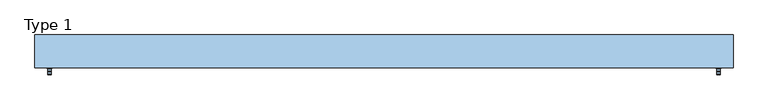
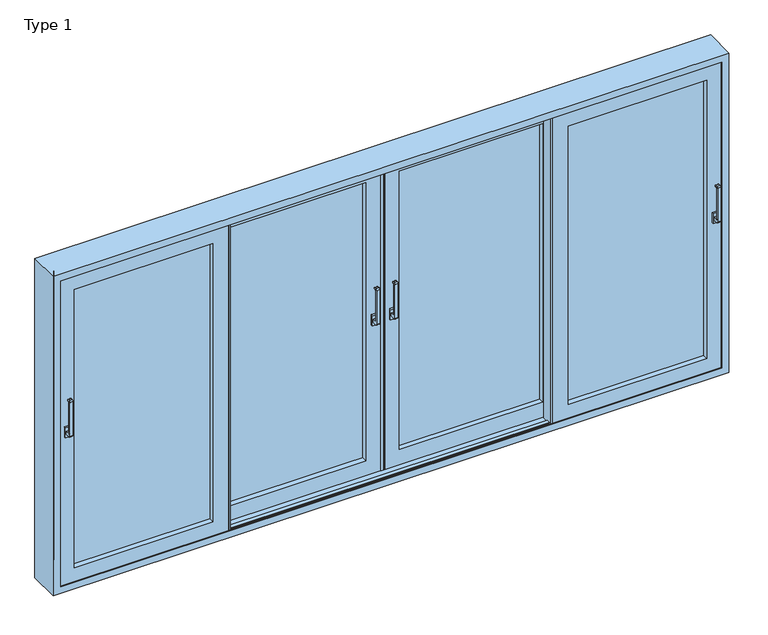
"""IFC4 building model written with IfcOpenShell, lengths in millimetres: window geometry, ETEM_ES70_Quadruple_Fly Screen_Lift_Sliding : Type 1."""

from ifc_helpers import new_model, si_unit, point, frame, frame_2d, origin, place, context, project, spatial, polyline, circle_curve, ellipse_curve, trimmed, segment, composite_curve, outline, extrude, faceted_brep, source, transform, mapped, element, save
from ifc_brep_helpers import plane_surface, cylinder_surface, revolved_surface, advanced_brep


def type_1_9ca19b3c(model_context):
    return source(origin(), model_context, "Body", "SolidModel", [
        extrude(outline(composite_curve([segment(polyline([(-107.3992454, 1090.0), (-138.9729301, 1090.0)]), True, "CONTINUOUS"), segment(trimmed(circle_curve(frame_2d((-138.9729301, 1098.4263152)), 8.4263152), [point((-138.9729301, 1090.0))], [point((-147.3992454, 1098.4263152))], False, "CARTESIAN"), True, "CONTINUOUS"), segment(polyline([(-147.3992454, 1098.4263152), (-147.3992454, 1331.5736848)]), True, "CONTINUOUS"), segment(trimmed(circle_curve(frame_2d((-138.9729301, 1331.5736848)), 8.4263152), [point((-147.3992454, 1331.5736848))], [point((-138.9729301, 1340.0))], False, "CARTESIAN"), True, "CONTINUOUS"), segment(polyline([(-138.9729301, 1340.0), (-127.3992454, 1340.0)]), True, "CONTINUOUS"), segment(trimmed(circle_curve(frame_2d((-127.3992454, 1335.0)), 5.0), [point((-127.3992454, 1340.0))], [point((-127.3992454, 1330.0))], False, "CARTESIAN"), True, "CONTINUOUS"), segment(polyline([(-127.3992454, 1330.0), (-133.8637115, 1330.0)]), True, "CONTINUOUS"), segment(trimmed(circle_curve(frame_2d((-133.8637115, 1326.4644661)), 3.5355339), [point((-133.8637115, 1330.0))], [point((-137.3992454, 1326.4644661))], True, "CARTESIAN"), True, "CONTINUOUS"), segment(polyline([(-137.3992454, 1326.4644661), (-137.3992454, 1113.5355339)]), True, "CONTINUOUS"), segment(trimmed(circle_curve(frame_2d((-133.8637115, 1113.5355339)), 3.5355339), [point((-137.3992454, 1113.5355339))], [point((-133.8637115, 1110.0))], True, "CARTESIAN"), True, "CONTINUOUS"), segment(polyline([(-133.8637115, 1110.0), (-107.3992454, 1110.0), (-107.3992454, 1090.0)]), True, "CONTINUOUS")], self_intersect=False)), frame((2098.5, 0.0, 0.0), z_axis=(1.0, 0.0, 0.0), x_axis=(0.0, 1.0, 0.0)), (0.0, 0.0, 1.0), 20.0),
        extrude(outline(polyline([(2093.5, -107.3992454), (2093.5, -94.3992454), (2123.5, -94.3992454), (2123.5, -107.3992454), (2093.5, -107.3992454)])), frame((0.0, 0.0, 1065.0), z_axis=(0.0, 0.0, 1.0), x_axis=(1.0, 0.0, 0.0)), (0.0, 0.0, 1.0), 70.0),
        extrude(outline(composite_curve([segment(polyline([(-107.3992454, 1090.0), (-138.9729301, 1090.0)]), True, "CONTINUOUS"), segment(trimmed(circle_curve(frame_2d((-138.9729301, 1098.4263152)), 8.4263152), [point((-138.9729301, 1090.0))], [point((-147.3992454, 1098.4263152))], False, "CARTESIAN"), True, "CONTINUOUS"), segment(polyline([(-147.3992454, 1098.4263152), (-147.3992454, 1331.5736848)]), True, "CONTINUOUS"), segment(trimmed(circle_curve(frame_2d((-138.9729301, 1331.5736848)), 8.4263152), [point((-147.3992454, 1331.5736848))], [point((-138.9729301, 1340.0))], False, "CARTESIAN"), True, "CONTINUOUS"), segment(polyline([(-138.9729301, 1340.0), (-127.3992454, 1340.0)]), True, "CONTINUOUS"), segment(trimmed(circle_curve(frame_2d((-127.3992454, 1335.0)), 5.0), [point((-127.3992454, 1340.0))], [point((-127.3992454, 1330.0))], False, "CARTESIAN"), True, "CONTINUOUS"), segment(polyline([(-127.3992454, 1330.0), (-133.8637115, 1330.0)]), True, "CONTINUOUS"), segment(trimmed(circle_curve(frame_2d((-133.8637115, 1326.4644661)), 3.5355339), [point((-133.8637115, 1330.0))], [point((-137.3992454, 1326.4644661))], True, "CARTESIAN"), True, "CONTINUOUS"), segment(polyline([(-137.3992454, 1326.4644661), (-137.3992454, 1113.5355339)]), True, "CONTINUOUS"), segment(trimmed(circle_curve(frame_2d((-133.8637115, 1113.5355339)), 3.5355339), [point((-137.3992454, 1113.5355339))], [point((-133.8637115, 1110.0))], True, "CARTESIAN"), True, "CONTINUOUS"), segment(polyline([(-133.8637115, 1110.0), (-107.3992454, 1110.0), (-107.3992454, 1090.0)]), True, "CONTINUOUS")], self_intersect=False)), frame((-2118.5, 0.0, 0.0), z_axis=(1.0, 0.0, 0.0), x_axis=(0.0, 1.0, 0.0)), (0.0, 0.0, 1.0), 20.0),
        extrude(outline(polyline([(-2123.5, -107.3992454), (-2123.5, -94.3992454), (-2093.5, -94.3992454), (-2093.5, -107.3992454), (-2123.5, -107.3992454)])), frame((0.0, 0.0, 1065.0), z_axis=(0.0, 0.0, 1.0), x_axis=(1.0, 0.0, 0.0)), (0.0, 0.0, 1.0), 70.0),
        extrude(outline(composite_curve([segment(polyline([(-17.4, 1090.0), (-48.9736848, 1090.0)]), True, "CONTINUOUS"), segment(trimmed(circle_curve(frame_2d((-48.9736848, 1098.4263152)), 8.4263152), [point((-48.9736848, 1090.0))], [point((-57.4, 1098.4263152))], False, "CARTESIAN"), True, "CONTINUOUS"), segment(polyline([(-57.4, 1098.4263152), (-57.4, 1331.5736848)]), True, "CONTINUOUS"), segment(trimmed(circle_curve(frame_2d((-48.9736848, 1331.5736848)), 8.4263152), [point((-57.4, 1331.5736848))], [point((-48.9736848, 1340.0))], False, "CARTESIAN"), True, "CONTINUOUS"), segment(polyline([(-48.9736848, 1340.0), (-37.4, 1340.0)]), True, "CONTINUOUS"), segment(trimmed(circle_curve(frame_2d((-37.4, 1335.0)), 5.0), [point((-37.4, 1340.0))], [point((-37.4, 1330.0))], False, "CARTESIAN"), True, "CONTINUOUS"), segment(polyline([(-37.4, 1330.0), (-43.8644661, 1330.0)]), True, "CONTINUOUS"), segment(trimmed(circle_curve(frame_2d((-43.8644661, 1326.4644661)), 3.5355339), [point((-43.8644661, 1330.0))], [point((-47.4, 1326.4644661))], True, "CARTESIAN"), True, "CONTINUOUS"), segment(polyline([(-47.4, 1326.4644661), (-47.4, 1113.5355339)]), True, "CONTINUOUS"), segment(trimmed(circle_curve(frame_2d((-43.8644661, 1113.5355339)), 3.5355339), [point((-47.4, 1113.5355339))], [point((-43.8644661, 1110.0))], True, "CARTESIAN"), True, "CONTINUOUS"), segment(polyline([(-43.8644661, 1110.0), (-17.4, 1110.0), (-17.4, 1090.0)]), True, "CONTINUOUS")], self_intersect=False)), frame((-69.4936823, 0.0, 0.0), z_axis=(1.0, 0.0, 0.0), x_axis=(0.0, 1.0, 0.0)), (0.0, 0.0, 1.0), 20.0),
        extrude(outline(polyline([(-74.4936823, -17.4), (-74.4936823, -4.4), (-44.4936823, -4.4), (-44.4936823, -17.4), (-74.4936823, -17.4)])), frame((0.0, 0.0, 1065.0), z_axis=(0.0, 0.0, 1.0), x_axis=(1.0, 0.0, 0.0)), (0.0, 0.0, 1.0), 70.0),
        extrude(outline(composite_curve([segment(polyline([(-17.4, 1090.0), (-48.9736848, 1090.0)]), True, "CONTINUOUS"), segment(trimmed(circle_curve(frame_2d((-48.9736848, 1098.4263152)), 8.4263152), [point((-48.9736848, 1090.0))], [point((-57.4, 1098.4263152))], False, "CARTESIAN"), True, "CONTINUOUS"), segment(polyline([(-57.4, 1098.4263152), (-57.4, 1331.5736848)]), True, "CONTINUOUS"), segment(trimmed(circle_curve(frame_2d((-48.9736848, 1331.5736848)), 8.4263152), [point((-57.4, 1331.5736848))], [point((-48.9736848, 1340.0))], False, "CARTESIAN"), True, "CONTINUOUS"), segment(polyline([(-48.9736848, 1340.0), (-37.4, 1340.0)]), True, "CONTINUOUS"), segment(trimmed(circle_curve(frame_2d((-37.4, 1335.0)), 5.0), [point((-37.4, 1340.0))], [point((-37.4, 1330.0))], False, "CARTESIAN"), True, "CONTINUOUS"), segment(polyline([(-37.4, 1330.0), (-43.8644661, 1330.0)]), True, "CONTINUOUS"), segment(trimmed(circle_curve(frame_2d((-43.8644661, 1326.4644661)), 3.5355339), [point((-43.8644661, 1330.0))], [point((-47.4, 1326.4644661))], True, "CARTESIAN"), True, "CONTINUOUS"), segment(polyline([(-47.4, 1326.4644661), (-47.4, 1113.5355339)]), True, "CONTINUOUS"), segment(trimmed(circle_curve(frame_2d((-43.8644661, 1113.5355339)), 3.5355339), [point((-47.4, 1113.5355339))], [point((-43.8644661, 1110.0))], True, "CARTESIAN"), True, "CONTINUOUS"), segment(polyline([(-43.8644661, 1110.0), (-17.4, 1110.0), (-17.4, 1090.0)]), True, "CONTINUOUS")], self_intersect=False)), frame((49.4931787, 0.0, 0.0), z_axis=(1.0, 0.0, 0.0), x_axis=(0.0, 1.0, 0.0)), (0.0, 0.0, 1.0), 20.0),
        extrude(outline(polyline([(74.4931787, -17.4), (44.4931787, -17.4), (44.4931787, -4.4), (74.4931787, -4.4), (74.4931787, -17.4)])), frame((0.0, 0.0, 1065.0), z_axis=(0.0, 0.0, 1.0), x_axis=(1.0, 0.0, 0.0)), (0.0, 0.0, 1.0), 70.0),
        faceted_brep([(2200.0, -101.0, 2200.0), (2200.0, -101.0, 0.0), (2200.0, 105.0, 0.0), (2200.0, 105.0, 2200.0), (-2200.0, -101.0, 2200.0), (-2200.0, -101.0, 0.0), (2152.0, -101.0, 48.0), (-2152.0, -101.0, 48.0), (-2152.0, -101.0, 2152.0), (2152.0, -101.0, 2152.0), (-2200.0, 105.0, 0.0), (-2200.0, 105.0, 2200.0), (2183.7, 105.0, 2183.7), (-2183.7, 105.0, 2183.7), (-2183.7, 105.0, 16.3), (2183.7, 105.0, 16.3), (2183.7, 35.1, 2183.7), (2183.7, 84.1, 2183.7), (2183.7, 84.1, 16.3), (2183.7, 35.1, 16.3), (-2183.7, 84.1, 16.3), (-2183.7, 35.1, 16.3), (-2183.7, 35.1, 2183.7), (2160.0, 35.1, 2160.0), (-2160.0, 35.1, 2160.0), (-2160.0, 35.1, 40.0), (2160.0, 35.1, 40.0), (2160.0, 49.1, 2160.0), (2160.0, 49.1, 40.0), (-2160.0, 49.1, 40.0), (-2160.0, 49.1, 2160.0), (2152.0, 49.1, 2152.0), (-2152.0, 49.1, 2152.0), (-2152.0, 49.1, 48.0), (2152.0, 49.1, 48.0), (2152.0, 26.1, 2152.0), (2152.0, 26.1, 48.0), (-2152.0, 26.1, 48.0), (2183.7, 26.1, 2183.7), (-2183.7, 26.1, 2183.7), (-2183.7, 26.1, 16.3), (2183.7, 26.1, 16.3), (-2152.0, 26.1, 2152.0), (2183.7, -54.9, 2183.7), (2183.7, -54.9, 16.3), (-2183.7, -54.9, 16.3), (-2183.7, -54.9, 2183.7), (2152.0, -54.9, 2152.0), (-2152.0, -54.9, 2152.0), (-2152.0, -54.9, 48.0), (2152.0, -54.9, 48.0), (2152.0, -77.9, 2152.0), (2152.0, -77.9, 48.0), (-2152.0, -77.9, 48.0), (2160.0, -77.9, 2160.0), (-2160.0, -77.9, 2160.0), (-2160.0, -77.9, 40.0), (2160.0, -77.9, 40.0), (-2152.0, -77.9, 2152.0), (2160.0, -63.9, 2160.0), (2160.0, -63.9, 40.0), (-2160.0, -63.9, 40.0), (2183.7, -63.9, 2183.7), (-2183.7, -63.9, 2183.7), (-2183.7, -63.9, 16.3), (2183.7, -63.9, 16.3), (-2160.0, -63.9, 2160.0), (2183.7, -97.2, 2183.7), (2183.7, -97.2, 16.3), (-2183.7, -97.2, 16.3), (-2183.7, -97.2, 2183.7), (2152.0, -97.2, 2152.0), (-2152.0, -97.2, 2152.0), (-2152.0, -97.2, 48.0), (2152.0, -97.2, 48.0), (-2183.7, 84.1, 2183.7), (2161.0, 84.1, 39.0), (-2161.0, 84.1, 39.0), (-2161.0, 84.1, 2161.0), (2161.0, 84.1, 2161.0), (-2183.7, 93.1, 16.3), (-2183.7, 93.1, 2183.7), (2183.7, 93.1, 16.3), (2183.7, 93.1, 2183.7), (2161.0, 93.1, 2161.0), (-2161.0, 93.1, 2161.0), (-2161.0, 93.1, 39.0), (2161.0, 93.1, 39.0), (2161.0, 94.6007546, 2161.0), (2161.0, 94.6007546, 39.0), (-2161.0, 94.6007546, 39.0), (-2161.0, 94.6007546, 2161.0), (2152.0, 94.6007546, 2152.0), (-2152.0, 94.6007546, 2152.0), (-2152.0, 94.6007546, 48.0), (2152.0, 94.6007546, 48.0), (2152.0, 82.6007546, 2152.0), (2152.0, 82.6007546, 48.0), (-2152.0, 82.6007546, 48.0), (2161.0, 82.6007546, 2161.0), (-2161.0, 82.6007546, 2161.0), (-2161.0, 82.6007546, 39.0), (2161.0, 82.6007546, 39.0), (-2152.0, 82.6007546, 2152.0)], [[[0, 1, 2, 3]], [[0, 4, 5, 1], [6, 7, 8, 9]], [[2, 1, 5, 10]], [[2, 10, 11, 3], [12, 13, 14, 15]], [[16, 17, 18, 19]], [[19, 18, 20, 21]], [[19, 21, 22, 16], [23, 24, 25, 26]], [[27, 23, 26, 28]], [[28, 26, 25, 29]], [[28, 29, 30, 27], [31, 32, 33, 34]], [[35, 31, 34, 36]], [[36, 34, 33, 37]], [[38, 39, 40, 41], [36, 37, 42, 35]], [[43, 38, 41, 44]], [[44, 41, 40, 45]], [[44, 45, 46, 43], [47, 48, 49, 50]], [[51, 47, 50, 52]], [[52, 50, 49, 53]], [[54, 55, 56, 57], [52, 53, 58, 51]], [[59, 54, 57, 60]], [[60, 57, 56, 61]], [[62, 63, 64, 65], [60, 61, 66, 59]], [[67, 62, 65, 68]], [[68, 65, 64, 69]], [[68, 69, 70, 67], [71, 72, 73, 74]], [[9, 71, 74, 6]], [[6, 74, 73, 7]], [[10, 5, 4, 11]], [[21, 20, 75, 22]], [[29, 25, 24, 30]], [[37, 33, 32, 42]], [[45, 40, 39, 46]], [[53, 49, 48, 58]], [[61, 56, 55, 66]], [[69, 64, 63, 70]], [[7, 73, 72, 8]], [[11, 4, 0, 3]], [[22, 75, 17, 16]], [[30, 24, 23, 27]], [[42, 32, 31, 35]], [[46, 39, 38, 43]], [[58, 48, 47, 51]], [[66, 55, 54, 59]], [[70, 63, 62, 67]], [[8, 72, 71, 9]], [[17, 75, 20, 18], [76, 77, 78, 79]], [[80, 14, 13, 81]], [[82, 15, 14, 80]], [[83, 12, 15, 82]], [[82, 80, 81, 83], [84, 85, 86, 87]], [[88, 84, 87, 89]], [[89, 87, 86, 90]], [[89, 90, 91, 88], [92, 93, 94, 95]], [[96, 92, 95, 97]], [[97, 95, 94, 98]], [[99, 100, 101, 102], [97, 98, 103, 96]], [[79, 99, 102, 76]], [[76, 102, 101, 77]], [[90, 86, 85, 91]], [[98, 94, 93, 103]], [[77, 101, 100, 78]], [[81, 13, 12, 83]], [[91, 85, 84, 88]], [[103, 93, 92, 96]], [[78, 100, 99, 79]]]),
        faceted_brep([(1146.5, 8.0, 2161.0), (1146.5, -4.4, 2161.0), (1146.5, -4.4, 39.0), (1146.5, 8.0, 39.0), (7.0252518, -4.4, 2161.0), (7.0252518, -4.4, 39.0), (1043.5, -4.4, 142.0), (110.0252518, -4.4, 142.0), (110.0252518, -4.4, 2058.0), (1043.5, -4.4, 2058.0), (7.0252518, 8.0, 39.0), (7.0252518, 8.0, 2161.0), (1115.4, 8.0, 2129.9), (38.1252518, 8.0, 2129.9), (38.1252518, 8.0, 70.1), (1115.4, 8.0, 70.1), (1115.4, 53.2, 2129.9), (1115.4, 53.2, 70.1), (38.1252518, 53.2, 70.1), (1146.5, 53.2, 2161.0), (7.0252518, 53.2, 2161.0), (7.0252518, 53.2, 39.0), (1146.5, 53.2, 39.0), (38.1252518, 53.2, 2129.9), (1146.5, 65.6, 2161.0), (1146.5, 65.6, 39.0), (7.0252518, 65.6, 39.0), (7.0252518, 65.6, 2161.0), (1043.5, 65.6, 2058.0), (110.0252518, 65.6, 2058.0), (110.0252518, 65.6, 142.0), (1043.5, 65.6, 142.0)], [[[0, 1, 2, 3]], [[1, 4, 5, 2], [6, 7, 8, 9]], [[3, 2, 5, 10]], [[3, 10, 11, 0], [12, 13, 14, 15]], [[16, 12, 15, 17]], [[17, 15, 14, 18]], [[19, 20, 21, 22], [17, 18, 23, 16]], [[24, 19, 22, 25]], [[25, 22, 21, 26]], [[25, 26, 27, 24], [28, 29, 30, 31]], [[9, 28, 31, 6]], [[6, 31, 30, 7]], [[10, 5, 4, 11]], [[18, 14, 13, 23]], [[26, 21, 20, 27]], [[7, 30, 29, 8]], [[11, 4, 1, 0]], [[23, 13, 12, 16]], [[27, 20, 19, 24]], [[8, 29, 28, 9]]]),
        extrude(outline(polyline([(1156.5, -16.2), (1146.5, -16.2), (1146.5, 65.6), (1156.5, 65.6), (1156.5, -16.2)])), frame((0.0, 0.0, 39.0), z_axis=(0.0, 0.0, 1.0), x_axis=(1.0, 0.0, 0.0)), (0.0, 0.0, 1.0), 2122.0),
        extrude(outline(polyline([(1043.5, -12.5992454), (1053.5, -12.5992454), (1053.5, -94.3992454), (1043.5, -94.3992454), (1043.5, -12.5992454)])), frame((0.0, 0.0, 39.0), z_axis=(0.0, 0.0, 1.0), x_axis=(1.0, 0.0, 0.0)), (0.0, 0.0, 1.0), 2122.0),
        extrude(outline(polyline([(109.9252518, 57.6022684), (1043.55, 57.6022684), (1043.55, 51.6022684), (109.9252518, 51.6022684), (109.9252518, 57.6022684)])), frame((0.0, 0.0, 142.0), z_axis=(0.0, 0.0, 1.0), x_axis=(1.0, 0.0, 0.0)), (0.0, 0.0, 1.0), 1916.0),
        extrude(outline(polyline([(1156.5, -32.3992409), (2058.0, -32.3992409), (2058.0, -38.3992409), (1156.5, -38.3992409), (1156.5, -32.3992409)])), frame((0.0, 0.0, 141.9749999), z_axis=(0.0, 0.0, 1.0), x_axis=(1.0, 0.0, 0.0)), (0.0, 0.0, 1.0), 1916.0500002),
        extrude(outline(polyline([(109.9252518, 35.6022684), (1043.55, 35.6022684), (1043.55, 29.6022684), (109.9252518, 29.6022684), (109.9252518, 35.6022684)])), frame((0.0, 0.0, 142.0), z_axis=(0.0, 0.0, 1.0), x_axis=(1.0, 0.0, 0.0)), (0.0, 0.0, 1.0), 1916.0),
        extrude(outline(polyline([(1156.5, -54.3992409), (2058.0, -54.3992409), (2058.0, -60.3992409), (1156.5, -60.3992409), (1156.5, -54.3992409)])), frame((0.0, 0.0, 141.9749999), z_axis=(0.0, 0.0, 1.0), x_axis=(1.0, 0.0, 0.0)), (0.0, 0.0, 1.0), 1916.0500002),
        faceted_brep([(-7.0252518, 8.0, 2161.0), (-7.0252518, -4.4, 2161.0), (-7.0252518, -4.4, 39.0), (-7.0252518, 8.0, 39.0), (-1146.5, -4.4, 2161.0), (-1146.5, -4.4, 39.0), (-110.0252518, -4.4, 142.0), (-1043.5, -4.4, 142.0), (-1043.5, -4.4, 2058.0), (-110.0252518, -4.4, 2058.0), (-1146.5, 8.0, 39.0), (-1146.5, 8.0, 2161.0), (-38.1252518, 8.0, 2129.9), (-1115.4, 8.0, 2129.9), (-1115.4, 8.0, 70.1), (-38.1252518, 8.0, 70.1), (-38.1252518, 53.2, 2129.9), (-38.1252518, 53.2, 70.1), (-1115.4, 53.2, 70.1), (-7.0252518, 53.2, 2161.0), (-1146.5, 53.2, 2161.0), (-1146.5, 53.2, 39.0), (-7.0252518, 53.2, 39.0), (-1115.4, 53.2, 2129.9), (-7.0252518, 65.6, 2161.0), (-7.0252518, 65.6, 39.0), (-1146.5, 65.6, 39.0), (-1146.5, 65.6, 2161.0), (-110.0252518, 65.6, 2058.0), (-1043.5, 65.6, 2058.0), (-1043.5, 65.6, 142.0), (-110.0252518, 65.6, 142.0)], [[[0, 1, 2, 3]], [[1, 4, 5, 2], [6, 7, 8, 9]], [[3, 2, 5, 10]], [[3, 10, 11, 0], [12, 13, 14, 15]], [[16, 12, 15, 17]], [[17, 15, 14, 18]], [[19, 20, 21, 22], [17, 18, 23, 16]], [[24, 19, 22, 25]], [[25, 22, 21, 26]], [[25, 26, 27, 24], [28, 29, 30, 31]], [[9, 28, 31, 6]], [[6, 31, 30, 7]], [[10, 5, 4, 11]], [[18, 14, 13, 23]], [[26, 21, 20, 27]], [[7, 30, 29, 8]], [[11, 4, 1, 0]], [[23, 13, 12, 16]], [[27, 20, 19, 24]], [[8, 29, 28, 9]]]),
        extrude(outline(polyline([(-1043.55, 57.6022684), (-109.9252518, 57.6022684), (-109.9252518, 51.6022684), (-1043.55, 51.6022684), (-1043.55, 57.6022684)])), frame((0.0, 0.0, 142.0), z_axis=(0.0, 0.0, 1.0), x_axis=(1.0, 0.0, 0.0)), (0.0, 0.0, 1.0), 1916.0),
        extrude(outline(polyline([(-1043.55, 35.6022684), (-109.9252518, 35.6022684), (-109.9252518, 29.6022684), (-1043.55, 29.6022684), (-1043.55, 35.6022684)])), frame((0.0, 0.0, 142.0), z_axis=(0.0, 0.0, 1.0), x_axis=(1.0, 0.0, 0.0)), (0.0, 0.0, 1.0), 1916.0),
        faceted_brep([(-1053.5, -81.9992454, 2161.0), (-1053.5, -94.3992454, 2161.0), (-1053.5, -94.3992454, 39.0), (-1053.5, -81.9992454, 39.0), (-2161.0, -94.3992454, 39.0), (-2161.0, -81.9992454, 39.0), (-2161.0, -94.3992454, 2161.0), (-2058.0250001, -94.3992454, 141.9749999), (-2058.0250001, -94.3992454, 2058.0250001), (-1156.4749999, -94.3992454, 2058.0250001), (-1156.4749999, -94.3992454, 141.9749999), (-2161.0, -81.9992454, 2161.0), (-1084.5749999, -81.9992454, 70.0749999), (-1084.5749999, -81.9992454, 2129.9250001), (-2129.9250001, -81.9992454, 2129.9250001), (-2129.9250001, -81.9992454, 70.0749999), (-1084.5749999, -36.7992454, 2129.9250001), (-1084.5749999, -36.7992454, 70.0749999), (-2129.9250001, -36.7992454, 70.0749999), (-2129.9250001, -36.7992454, 2129.9250001), (-1053.5, -36.7992454, 39.0), (-1053.5, -36.7992454, 2161.0), (-2161.0, -36.7992454, 2161.0), (-2161.0, -36.7992454, 39.0), (-1053.5, -24.3992454, 2161.0), (-1053.5, -24.3992454, 39.0), (-2161.0, -24.3992454, 39.0), (-2161.0, -24.3992454, 2161.0), (-1156.4749999, -24.3992454, 141.9749999), (-1156.4749999, -24.3992454, 2058.0250001), (-2058.0250001, -24.3992454, 2058.0250001), (-2058.0250001, -24.3992454, 141.9749999)], [[[0, 1, 2, 3]], [[3, 2, 4, 5]], [[2, 1, 6, 4], [7, 8, 9, 10]], [[5, 4, 6, 11]], [[5, 11, 0, 3], [12, 13, 14, 15]], [[16, 13, 12, 17]], [[17, 12, 15, 18]], [[18, 15, 14, 19]], [[20, 21, 22, 23], [18, 19, 16, 17]], [[24, 21, 20, 25]], [[25, 20, 23, 26]], [[26, 23, 22, 27]], [[26, 27, 24, 25], [28, 29, 30, 31]], [[9, 29, 28, 10]], [[10, 28, 31, 7]], [[7, 31, 30, 8]], [[11, 6, 1, 0]], [[19, 14, 13, 16]], [[27, 22, 21, 24]], [[8, 30, 29, 9]]]),
        extrude(outline(polyline([(-1043.5, -12.5992454), (-1043.5, -94.3992454), (-1053.5, -94.3992454), (-1053.5, -12.5992454), (-1043.5, -12.5992454)])), frame((0.0, 0.0, 39.0), z_axis=(0.0, 0.0, 1.0), x_axis=(1.0, 0.0, 0.0)), (0.0, 0.0, 1.0), 2122.0),
        extrude(outline(polyline([(-1156.45, -16.2), (-1156.45, 65.6), (-1146.55, 65.6), (-1146.55, -16.2), (-1156.45, -16.2)])), frame((0.0, 0.0, 39.0), z_axis=(0.0, 0.0, 1.0), x_axis=(1.0, 0.0, 0.0)), (0.0, 0.0, 1.0), 2122.0),
        extrude(outline(polyline([(-2058.0, -32.3992409), (-1156.5, -32.3992409), (-1156.5, -38.3992409), (-2058.0, -38.3992409), (-2058.0, -32.3992409)])), frame((0.0, 0.0, 141.9749999), z_axis=(0.0, 0.0, 1.0), x_axis=(1.0, 0.0, 0.0)), (0.0, 0.0, 1.0), 1916.0500002),
        extrude(outline(polyline([(-2058.0, -54.3992409), (-1156.5, -54.3992409), (-1156.5, -60.3992409), (-2058.0, -60.3992409), (-2058.0, -54.3992409)])), frame((0.0, 0.0, 141.9749999), z_axis=(0.0, 0.0, 1.0), x_axis=(1.0, 0.0, 0.0)), (0.0, 0.0, 1.0), 1916.0500002),
        extrude(outline(polyline([(7.0252518, 12.0992454), (7.0252518, -4.4), (12.3472419, -4.4), (12.3472419, -6.1977684), (-12.6492101, -6.1977684), (-12.6492101, -4.4), (-7.0252518, -4.4), (-7.0252518, 65.6), (-12.6492101, 65.6), (-12.6492101, 67.3992777), (12.3472419, 67.3992777), (12.3472419, 65.6), (7.0252518, 65.6), (7.0252518, 49.1007546), (16.0497482, 49.1007546), (16.0497482, 12.0992454), (7.0252518, 12.0992454)])), frame((0.0, 0.0, 39.0188293), z_axis=(0.0, 0.0, 1.0), x_axis=(1.0, 0.0, 0.0)), (0.0, 0.0, 1.0), 2121.9623414),
        faceted_brep([(2161.0, -81.9992454, 2161.0), (2161.0, -94.3992454, 2161.0), (2161.0, -94.3992454, 39.0), (2161.0, -81.9992454, 39.0), (1053.5, -94.3992454, 39.0), (1053.5, -81.9992454, 39.0), (1053.5, -94.3992454, 2161.0), (1156.4749999, -94.3992454, 141.9749999), (1156.4749999, -94.3992454, 2058.0250001), (2058.0250001, -94.3992454, 2058.0250001), (2058.0250001, -94.3992454, 141.9749999), (1053.5, -81.9992454, 2161.0), (2129.9250001, -81.9992454, 70.0749999), (2129.9250001, -81.9992454, 2129.9250001), (1084.5749999, -81.9992454, 2129.9250001), (1084.5749999, -81.9992454, 70.0749999), (2129.9250001, -36.7992454, 2129.9250001), (2129.9250001, -36.7992454, 70.0749999), (1084.5749999, -36.7992454, 70.0749999), (1084.5749999, -36.7992454, 2129.9250001), (2161.0, -36.7992454, 39.0), (2161.0, -36.7992454, 2161.0), (1053.5, -36.7992454, 2161.0), (1053.5, -36.7992454, 39.0), (2161.0, -24.3992454, 2161.0), (2161.0, -24.3992454, 39.0), (1053.5, -24.3992454, 39.0), (1053.5, -24.3992454, 2161.0), (2058.0250001, -24.3992454, 141.9749999), (2058.0250001, -24.3992454, 2058.0250001), (1156.4749999, -24.3992454, 2058.0250001), (1156.4749999, -24.3992454, 141.9749999)], [[[0, 1, 2, 3]], [[3, 2, 4, 5]], [[2, 1, 6, 4], [7, 8, 9, 10]], [[5, 4, 6, 11]], [[5, 11, 0, 3], [12, 13, 14, 15]], [[16, 13, 12, 17]], [[17, 12, 15, 18]], [[18, 15, 14, 19]], [[20, 21, 22, 23], [18, 19, 16, 17]], [[24, 21, 20, 25]], [[25, 20, 23, 26]], [[26, 23, 22, 27]], [[26, 27, 24, 25], [28, 29, 30, 31]], [[9, 29, 28, 10]], [[10, 28, 31, 7]], [[7, 31, 30, 8]], [[11, 6, 1, 0]], [[19, 14, 13, 16]], [[27, 22, 21, 24]], [[8, 30, 29, 9]]]),
        extrude(outline(polyline([(-2090.0, 78.6007546), (-1152.4624998, 78.6007546), (-1152.4624998, 77.6007546), (-2090.0, 77.6007546), (-2090.0, 78.6007546)])), frame((0.0, 0.0, 110.0), z_axis=(0.0, 0.0, 1.0), x_axis=(1.0, 0.0, 0.0)), (0.0, 0.0, 1.0), 1980.0),
        advanced_brep(
        [(-1149.0624998, 75.6507546, 2093.4), (-1149.0624998, 78.6507546, 2093.4), (-1149.0624998, 78.6507546, 106.6), (-1149.0624998, 75.6507546, 106.6), (-2093.4, 78.6507546, 2093.4), (-2093.4, 78.6507546, 106.6), (-1156.4624998, 78.6507546, 114.0), (-2086.0, 78.6507546, 114.0), (-2086.0, 78.6507546, 2086.0), (-1156.4624998, 78.6507546, 2086.0), (-2093.4, 75.6507546, 106.6), (-1147.2624998, 75.6507546, 2095.2), (-2095.2, 75.6507546, 2095.2), (-2095.2, 75.6507546, 104.8), (-1147.2624998, 75.6507546, 104.8), (-2093.4, 75.6507546, 2093.4), (-1147.3168213, 76.8482906, 2095.1456786), (-1147.3168213, 76.8482906, 104.8543214), (-2095.1456786, 76.8482906, 104.8543214), (-1147.8624998, 77.3507546, 2094.6), (-1147.8624998, 77.3507546, 105.4), (-2094.6, 77.3507546, 105.4), (-1147.8624998, 83.9507546, 2094.6), (-1147.8624998, 83.9507546, 105.4), (-2094.6, 83.9507546, 105.4), (-1127.6624998, 83.9507546, 2114.8), (-2114.8, 83.9507546, 2114.8), (-2114.8, 83.9507546, 85.2), (-1127.6624998, 83.9507546, 85.2), (-2094.6, 83.9507546, 2094.6), (-1127.6624998, 75.6507546, 2114.8), (-1127.6624998, 75.6507546, 85.2), (-2114.8, 75.6507546, 85.2), (-1084.4624998, 75.6507546, 2158.0), (-2158.0, 75.6507546, 2158.0), (-2158.0, 75.6507546, 42.0), (-1084.4624998, 75.6507546, 42.0), (-2114.8, 75.6507546, 2114.8), (-1081.4624998, 77.0050033, 2161.0), (-1081.4624998, 77.0050033, 39.0), (-2161.0, 77.0050033, 39.0), (-1081.4624998, 80.1507546, 2161.0), (-1081.4624998, 80.1507546, 39.0), (-2161.0, 80.1507546, 39.0), (-2161.0, 80.1507546, 2161.0), (-1091.7624998, 80.1507546, 2150.7), (-2150.7, 80.1507546, 2150.7), (-2150.7, 80.1507546, 49.3), (-1091.7624998, 80.1507546, 49.3), (-1091.7624998, 97.1507546, 2150.7), (-1091.7624998, 97.1507546, 49.3), (-2150.7, 97.1507546, 49.3), (-1081.4624998, 97.1507546, 2161.0), (-2161.0, 97.1507546, 2161.0), (-2161.0, 97.1507546, 39.0), (-1081.4624998, 97.1507546, 39.0), (-2150.7, 97.1507546, 2150.7), (-1081.4624998, 100.296506, 2161.0), (-1081.4624998, 100.296506, 39.0), (-2161.0, 100.296506, 39.0), (-1084.4624998, 101.6507546, 2158.0), (-1084.4624998, 101.6507546, 42.0), (-2158.0, 101.6507546, 42.0), (-2158.0, 101.6507546, 2158.0), (-1127.6624998, 101.6507546, 2114.8), (-2114.8, 101.6507546, 2114.8), (-2114.8, 101.6507546, 85.2), (-1127.6624998, 101.6507546, 85.2), (-1127.6624998, 93.3507546, 2114.8), (-1127.6624998, 93.3507546, 85.2), (-2114.8, 93.3507546, 85.2), (-2114.8, 93.3507546, 2114.8), (-1154.0624998, 93.3507546, 2088.4), (-2088.4, 93.3507546, 2088.4), (-2088.4, 93.3507546, 111.6), (-1154.0624998, 93.3507546, 111.6), (-1155.2624998, 94.5507546, 2087.2), (-1155.2624998, 94.5507546, 112.8), (-2087.2, 94.5507546, 112.8), (-1155.2624998, 97.6507546, 2087.2), (-1155.2624998, 97.6507546, 112.8), (-2087.2, 97.6507546, 112.8), (-1152.9566175, 100.4068112, 2089.5058824), (-1152.9566175, 100.4068112, 110.4941176), (-2089.5058824, 100.4068112, 110.4941176), (-1153.1683822, 101.5879783, 2089.2941177), (-1153.1683822, 101.5879783, 110.7058823), (-2089.2941177, 101.5879783, 110.7058823), (-1156.4624998, 97.6507546, 2086.0), (-1156.4624998, 97.6507546, 114.0), (-2086.0, 97.6507546, 114.0), (-2095.1456786, 76.8482906, 2095.1456786), (-2094.6, 77.3507546, 2094.6), (-2161.0, 77.0050033, 2161.0), (-2161.0, 100.296506, 2161.0), (-2087.2, 94.5507546, 2087.2), (-2087.2, 97.6507546, 2087.2), (-2089.5058824, 100.4068112, 2089.5058824), (-2089.2941177, 101.5879783, 2089.2941177), (-2086.0, 97.6507546, 2086.0)],
        [
            (0, 1),
            (1, 2),
            (2, 3),
            (3, 0),
            (1, 4),
            (4, 5),
            (5, 2),
            (6, 7),
            (7, 8),
            (8, 9),
            (9, 6),
            (5, 10),
            (10, 3),
            (11, 12),
            (12, 13),
            (13, 14),
            (14, 11),
            (10, 15),
            (15, 0),
            (16, 11, ellipse_curve(frame((-1147.2624998, 76.2507546, 2095.2), z_axis=(0.7071067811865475, 0.0, -0.7071067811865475), x_axis=(0.7071067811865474, 0.0, 0.7071067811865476)), 0.8485281, 0.6)),
            (14, 17, ellipse_curve(frame((-1147.2624998, 76.2507546, 104.8), z_axis=(0.7071067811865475, 0.0, 0.7071067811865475), x_axis=(-0.7071067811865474, 0.0, 0.7071067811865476)), 0.8485281, 0.6)),
            (17, 16),
            (13, 18, ellipse_curve(frame((-2095.2, 76.2507546, 104.8), z_axis=(0.7071067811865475, 0.0, -0.7071067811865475), x_axis=(0.7071067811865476, 0.0, 0.7071067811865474)), 0.8485281, 0.6)),
            (18, 17),
            (19, 16, ellipse_curve(frame((-1147.3624998, 77.3507546, 2095.1), z_axis=(-0.7071067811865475, 0.0, 0.7071067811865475), x_axis=(-0.7071067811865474, 0.0, -0.7071067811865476)), 0.7071068, 0.5)),
            (17, 20, ellipse_curve(frame((-1147.3624998, 77.3507546, 104.9), z_axis=(-0.7071067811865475, 0.0, -0.7071067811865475), x_axis=(0.7071067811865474, 0.0, -0.7071067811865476)), 0.7071068, 0.5)),
            (20, 19),
            (18, 21, ellipse_curve(frame((-2095.1, 77.3507546, 104.9), z_axis=(-0.7071067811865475, 0.0, 0.7071067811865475), x_axis=(-0.7071067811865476, 0.0, -0.7071067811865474)), 0.7071068, 0.5)),
            (21, 20),
            (22, 19),
            (20, 23),
            (23, 22),
            (21, 24),
            (24, 23),
            (25, 26),
            (26, 27),
            (27, 28),
            (28, 25),
            (24, 29),
            (29, 22),
            (30, 25),
            (28, 31),
            (31, 30),
            (27, 32),
            (32, 31),
            (33, 34),
            (34, 35),
            (35, 36),
            (36, 33),
            (32, 37),
            (37, 30),
            (38, 33, ellipse_curve(frame((-1084.4624998, 79.6507546, 2158.0), z_axis=(0.7071067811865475, 0.0, -0.7071067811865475), x_axis=(0.7071067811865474, 0.0, 0.7071067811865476)), 5.6568542, 4.0)),
            (36, 39, ellipse_curve(frame((-1084.4624998, 79.6507546, 42.0), z_axis=(0.7071067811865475, 0.0, 0.7071067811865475), x_axis=(-0.7071067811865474, 0.0, 0.7071067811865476)), 5.6568542, 4.0)),
            (39, 38),
            (35, 40, ellipse_curve(frame((-2158.0, 79.6507546, 42.0), z_axis=(0.7071067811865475, 0.0, -0.7071067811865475), x_axis=(0.7071067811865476, 0.0, 0.7071067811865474)), 5.6568542, 4.0)),
            (40, 39),
            (41, 38),
            (39, 42),
            (42, 41),
            (40, 43),
            (43, 42),
            (43, 44),
            (44, 41),
            (45, 46),
            (46, 47),
            (47, 48),
            (48, 45),
            (49, 45),
            (48, 50),
            (50, 49),
            (47, 51),
            (51, 50),
            (52, 53),
            (53, 54),
            (54, 55),
            (55, 52),
            (51, 56),
            (56, 49),
            (57, 52),
            (55, 58),
            (58, 57),
            (54, 59),
            (59, 58),
            (60, 57, ellipse_curve(frame((-1084.4624998, 97.6507546, 2158.0), z_axis=(0.7071067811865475, 0.0, -0.7071067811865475), x_axis=(0.7071067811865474, 0.0, 0.7071067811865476)), 5.6568542, 4.0)),
            (58, 61, ellipse_curve(frame((-1084.4624998, 97.6507546, 42.0), z_axis=(0.7071067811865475, 0.0, 0.7071067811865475), x_axis=(-0.7071067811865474, 0.0, 0.7071067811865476)), 5.6568542, 4.0)),
            (61, 60),
            (59, 62, ellipse_curve(frame((-2158.0, 97.6507546, 42.0), z_axis=(0.7071067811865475, 0.0, -0.7071067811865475), x_axis=(0.7071067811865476, 0.0, 0.7071067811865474)), 5.6568542, 4.0)),
            (62, 61),
            (62, 63),
            (63, 60),
            (64, 65),
            (65, 66),
            (66, 67),
            (67, 64),
            (68, 64),
            (67, 69),
            (69, 68),
            (66, 70),
            (70, 69),
            (70, 71),
            (71, 68),
            (72, 73),
            (73, 74),
            (74, 75),
            (75, 72),
            (76, 72, ellipse_curve(frame((-1154.0624998, 94.5507546, 2088.4), z_axis=(-0.7071067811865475, 0.0, 0.7071067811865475), x_axis=(-0.7071067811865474, 0.0, -0.7071067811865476)), 1.6970563, 1.2)),
            (75, 77, ellipse_curve(frame((-1154.0624998, 94.5507546, 111.6), z_axis=(-0.7071067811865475, 0.0, -0.7071067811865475), x_axis=(0.7071067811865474, 0.0, -0.7071067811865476)), 1.6970563, 1.2)),
            (77, 76),
            (74, 78, ellipse_curve(frame((-2088.4, 94.5507546, 111.6), z_axis=(-0.7071067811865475, 0.0, 0.7071067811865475), x_axis=(-0.7071067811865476, 0.0, -0.7071067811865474)), 1.6970563, 1.2)),
            (78, 77),
            (79, 76),
            (77, 80),
            (80, 79),
            (78, 81),
            (81, 80),
            (82, 79, ellipse_curve(frame((-1152.4624998, 97.6507546, 2090.0), z_axis=(-0.7071067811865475, 0.0, 0.7071067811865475), x_axis=(-0.7071067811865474, 0.0, -0.7071067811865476)), 3.959798, 2.8)),
            (80, 83, ellipse_curve(frame((-1152.4624998, 97.6507546, 110.0), z_axis=(-0.7071067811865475, 0.0, -0.7071067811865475), x_axis=(0.7071067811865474, 0.0, -0.7071067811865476)), 3.959798, 2.8)),
            (83, 82),
            (81, 84, ellipse_curve(frame((-2090.0, 97.6507546, 110.0), z_axis=(-0.7071067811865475, 0.0, 0.7071067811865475), x_axis=(-0.7071067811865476, 0.0, -0.7071067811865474)), 3.959798, 2.8)),
            (84, 83),
            (85, 82, ellipse_curve(frame((-1153.0624998, 100.9973947, 2089.4), z_axis=(0.7071067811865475, 0.0, -0.7071067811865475), x_axis=(0.7071067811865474, 0.0, 0.7071067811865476)), 0.8485281, 0.6)),
            (83, 86, ellipse_curve(frame((-1153.0624998, 100.9973947, 110.6), z_axis=(0.7071067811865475, 0.0, 0.7071067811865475), x_axis=(-0.7071067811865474, 0.0, 0.7071067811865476)), 0.8485281, 0.6)),
            (86, 85),
            (84, 87, ellipse_curve(frame((-2089.4, 100.9973947, 110.6), z_axis=(0.7071067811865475, 0.0, -0.7071067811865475), x_axis=(0.7071067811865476, 0.0, 0.7071067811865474)), 0.8485281, 0.6)),
            (87, 86),
            (88, 85, ellipse_curve(frame((-1152.4624998, 97.6507546, 2090.0), z_axis=(0.7071067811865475, 0.0, -0.7071067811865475), x_axis=(0.7071067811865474, 0.0, 0.7071067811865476)), 5.6568542, 4.0)),
            (86, 89, ellipse_curve(frame((-1152.4624998, 97.6507546, 110.0), z_axis=(0.7071067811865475, 0.0, 0.7071067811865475), x_axis=(-0.7071067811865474, 0.0, 0.7071067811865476)), 5.6568542, 4.0)),
            (89, 88),
            (87, 90, ellipse_curve(frame((-2090.0, 97.6507546, 110.0), z_axis=(0.7071067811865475, 0.0, -0.7071067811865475), x_axis=(0.7071067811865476, 0.0, 0.7071067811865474)), 5.6568542, 4.0)),
            (90, 89),
            (9, 88),
            (89, 6),
            (90, 7),
            (4, 15),
            (12, 91, ellipse_curve(frame((-2095.2, 76.2507546, 2095.2), z_axis=(-0.7071067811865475, 0.0, -0.7071067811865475), x_axis=(0.7071067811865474, 0.0, -0.7071067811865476)), 0.8485281, 0.6)),
            (91, 18),
            (91, 92, ellipse_curve(frame((-2095.1, 77.3507546, 2095.1), z_axis=(0.7071067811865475, 0.0, 0.7071067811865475), x_axis=(-0.7071067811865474, 0.0, 0.7071067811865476)), 0.7071068, 0.5)),
            (92, 21),
            (92, 29),
            (26, 37),
            (34, 93, ellipse_curve(frame((-2158.0, 79.6507546, 2158.0), z_axis=(-0.7071067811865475, 0.0, -0.7071067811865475), x_axis=(0.7071067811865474, 0.0, -0.7071067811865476)), 5.6568542, 4.0)),
            (93, 40),
            (93, 44),
            (46, 56),
            (53, 94),
            (94, 59),
            (94, 63, ellipse_curve(frame((-2158.0, 97.6507546, 2158.0), z_axis=(-0.7071067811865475, 0.0, -0.7071067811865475), x_axis=(0.7071067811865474, 0.0, -0.7071067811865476)), 5.6568542, 4.0)),
            (65, 71),
            (73, 95, ellipse_curve(frame((-2088.4, 94.5507546, 2088.4), z_axis=(0.7071067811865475, 0.0, 0.7071067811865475), x_axis=(-0.7071067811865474, 0.0, 0.7071067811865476)), 1.6970563, 1.2)),
            (95, 78),
            (95, 96),
            (96, 81),
            (96, 97, ellipse_curve(frame((-2090.0, 97.6507546, 2090.0), z_axis=(0.7071067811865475, 0.0, 0.7071067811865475), x_axis=(-0.7071067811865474, 0.0, 0.7071067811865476)), 3.959798, 2.8)),
            (97, 84),
            (97, 98, ellipse_curve(frame((-2089.4, 100.9973947, 2089.4), z_axis=(-0.7071067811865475, 0.0, -0.7071067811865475), x_axis=(0.7071067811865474, 0.0, -0.7071067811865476)), 0.8485281, 0.6)),
            (98, 87),
            (98, 99, ellipse_curve(frame((-2090.0, 97.6507546, 2090.0), z_axis=(-0.7071067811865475, 0.0, -0.7071067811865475), x_axis=(0.7071067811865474, 0.0, -0.7071067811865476)), 5.6568542, 4.0)),
            (99, 90),
            (99, 8),
            (16, 91),
            (19, 92),
            (38, 93),
            (57, 94),
            (76, 95),
            (79, 96),
            (82, 97),
            (85, 98),
            (88, 99),
        ],
        [
            plane_surface(frame((-1149.0624998, 78.6507546, 2093.4), z_axis=(-1.0, 0.0, 0.0), x_axis=(0.0, 0.0, -1.0))),
            plane_surface(frame((-2086.0, 78.6507546, 2086.0), z_axis=(0.0, -1.0, 0.0), x_axis=(1.0, 0.0, 0.0))),
            plane_surface(frame((-1149.0624998, 78.6507546, 106.6), z_axis=(0.0, 0.0, 1.0), x_axis=(-1.0, 0.0, 0.0))),
            plane_surface(frame((-2093.4, 75.6507546, 2093.4), z_axis=(0.0, -1.0, 0.0), x_axis=(1.0, 0.0, 0.0))),
            cylinder_surface(frame((-1147.2624998, 76.2507546, 2161.0), z_axis=(0.0, 0.0, 1.0), x_axis=(-1.0, 0.0, 0.0)), 0.6),
            cylinder_surface(frame((-1081.4624998, 76.2507546, 104.8), z_axis=(1.0, 0.0, 0.0), x_axis=(0.0, 0.0, 1.0)), 0.6),
            revolved_surface(polyline([(-1147.8624998, 77.3507546, 104.39999998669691), (-1147.8624998, 77.3507546, 2095.600000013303)]), (-1147.3624998, 77.3507546, 2161.0), (0.0, 0.0, -1.0)),
            revolved_surface(polyline([(-2095.600000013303, 77.3507546, 105.4), (-1146.8624997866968, 77.3507546, 105.4)]), (-1081.4624998, 77.3507546, 104.9), (-1.0, 0.0, 0.0)),
            plane_surface(frame((-1147.8624998, 77.3507546, 2094.6), z_axis=(1.0, 0.0, 0.0), x_axis=(0.0, 0.0, -1.0))),
            plane_surface(frame((-1147.8624998, 77.3507546, 105.4), z_axis=(0.0, 0.0, -1.0), x_axis=(-1.0, 0.0, 0.0))),
            plane_surface(frame((-2094.6, 83.9507546, 2094.6), z_axis=(0.0, -1.0, 0.0), x_axis=(1.0, 0.0, 0.0))),
            plane_surface(frame((-1127.6624998, 83.9507546, 2114.8), z_axis=(-1.0, 0.0, 0.0), x_axis=(0.0, 0.0, -1.0))),
            plane_surface(frame((-1127.6624998, 83.9507546, 85.2), z_axis=(0.0, 0.0, 1.0), x_axis=(-1.0, 0.0, 0.0))),
            plane_surface(frame((-2114.8, 75.6507546, 2114.8), z_axis=(0.0, -1.0, 0.0), x_axis=(1.0, 0.0, 0.0))),
            cylinder_surface(frame((-1084.4624998, 79.6507546, 2161.0), z_axis=(0.0, 0.0, 1.0), x_axis=(-1.0, 0.0, 0.0)), 4.0),
            cylinder_surface(frame((-1081.4624998, 79.6507546, 42.0), z_axis=(1.0, 0.0, 0.0), x_axis=(0.0, 0.0, 1.0)), 4.0),
            plane_surface(frame((-1081.4624998, 77.0050033, 2161.0), z_axis=(1.0, 0.0, 0.0), x_axis=(0.0, 0.0, -1.0))),
            plane_surface(frame((-1081.4624998, 77.0050033, 39.0), z_axis=(0.0, 0.0, -1.0), x_axis=(-1.0, 0.0, 0.0))),
            plane_surface(frame((-2161.0, 80.1507546, 2161.0), z_axis=(0.0, 1.0, 0.0), x_axis=(1.0, 0.0, 0.0))),
            plane_surface(frame((-1091.7624998, 80.1507546, 2150.7), z_axis=(1.0, 0.0, 0.0), x_axis=(0.0, 0.0, -1.0))),
            plane_surface(frame((-1091.7624998, 80.1507546, 49.3), z_axis=(0.0, 0.0, -1.0), x_axis=(-1.0, 0.0, 0.0))),
            plane_surface(frame((-2150.7, 97.1507546, 2150.7), z_axis=(0.0, -1.0, 0.0), x_axis=(1.0, 0.0, 0.0))),
            plane_surface(frame((-1081.4624998, 97.1507546, 2161.0), z_axis=(1.0, 0.0, 0.0), x_axis=(0.0, 0.0, -1.0))),
            plane_surface(frame((-1081.4624998, 97.1507546, 39.0), z_axis=(0.0, 0.0, -1.0), x_axis=(-1.0, 0.0, 0.0))),
            cylinder_surface(frame((-1084.4624998, 97.6507546, 2161.0), z_axis=(0.0, 0.0, 1.0), x_axis=(-1.0, 0.0, 0.0)), 4.0),
            cylinder_surface(frame((-1081.4624998, 97.6507546, 42.0), z_axis=(1.0, 0.0, 0.0), x_axis=(0.0, 0.0, 1.0)), 4.0),
            plane_surface(frame((-2158.0, 101.6507546, 2158.0), z_axis=(0.0, 1.0, 0.0), x_axis=(1.0, 0.0, 0.0))),
            plane_surface(frame((-1127.6624998, 101.6507546, 2114.8), z_axis=(-1.0, 0.0, 0.0), x_axis=(0.0, 0.0, -1.0))),
            plane_surface(frame((-1127.6624998, 101.6507546, 85.2), z_axis=(0.0, 0.0, 1.0), x_axis=(-1.0, 0.0, 0.0))),
            plane_surface(frame((-2114.8, 93.3507546, 2114.8), z_axis=(0.0, 1.0, 0.0), x_axis=(1.0, 0.0, 0.0))),
            revolved_surface(polyline([(-1155.2624998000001, 94.5507546, 110.39999998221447), (-1155.2624998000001, 94.5507546, 2089.6000000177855)]), (-1154.0624998, 94.5507546, 2161.0), (0.0, 0.0, -1.0)),
            revolved_surface(polyline([(-2089.6000000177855, 94.5507546, 112.8), (-1152.8624997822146, 94.5507546, 112.8)]), (-1081.4624998, 94.5507546, 111.6), (-1.0, 0.0, 0.0)),
            plane_surface(frame((-1155.2624998, 94.5507546, 2087.2), z_axis=(1.0, 0.0, 0.0), x_axis=(0.0, 0.0, -1.0))),
            plane_surface(frame((-1155.2624998, 94.5507546, 112.8), z_axis=(0.0, 0.0, -1.0), x_axis=(-1.0, 0.0, 0.0))),
            revolved_surface(polyline([(-1155.2624998, 97.6507546, 107.19999998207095), (-1155.2624998, 97.6507546, 2092.800000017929)]), (-1152.4624998, 97.6507546, 2161.0), (0.0, 0.0, -1.0)),
            revolved_surface(polyline([(-2092.800000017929, 97.6507546, 112.8), (-1149.662499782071, 97.6507546, 112.8)]), (-1081.4624998, 97.6507546, 110.0), (-1.0, 0.0, 0.0)),
            cylinder_surface(frame((-1153.0624998, 100.9973947, 2161.0), z_axis=(0.0, 0.0, 1.0), x_axis=(-1.0, 0.0, 0.0)), 0.6),
            cylinder_surface(frame((-1081.4624998, 100.9973947, 110.6), z_axis=(1.0, 0.0, 0.0), x_axis=(0.0, 0.0, 1.0)), 0.6),
            cylinder_surface(frame((-1152.4624998, 97.6507546, 2161.0), z_axis=(0.0, 0.0, 1.0), x_axis=(-1.0, 0.0, 0.0)), 4.0),
            cylinder_surface(frame((-1081.4624998, 97.6507546, 110.0), z_axis=(1.0, 0.0, 0.0), x_axis=(0.0, 0.0, 1.0)), 4.0),
            plane_surface(frame((-1156.4624998, 97.6507546, 2086.0), z_axis=(-1.0, 0.0, 0.0), x_axis=(0.0, 0.0, -1.0))),
            plane_surface(frame((-1156.4624998, 97.6507546, 114.0), z_axis=(0.0, 0.0, 1.0), x_axis=(-1.0, 0.0, 0.0))),
            plane_surface(frame((-2093.4, 78.6507546, 106.6), z_axis=(1.0, 0.0, 0.0), x_axis=(0.0, 0.0, 1.0))),
            cylinder_surface(frame((-2095.2, 76.2507546, 39.0), z_axis=(0.0, 0.0, -1.0), x_axis=(1.0, 0.0, 0.0)), 0.6),
            revolved_surface(polyline([(-2094.6, 77.3507546, 2095.600000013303), (-2094.6, 77.3507546, 104.39999998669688)]), (-2095.1, 77.3507546, 39.0), (0.0, 0.0, 1.0)),
            plane_surface(frame((-2094.6, 77.3507546, 105.4), z_axis=(-1.0, 0.0, 0.0), x_axis=(0.0, 0.0, 1.0))),
            plane_surface(frame((-2114.8, 83.9507546, 85.2), z_axis=(1.0, 0.0, 0.0), x_axis=(0.0, 0.0, 1.0))),
            cylinder_surface(frame((-2158.0, 79.6507546, 39.0), z_axis=(0.0, 0.0, -1.0), x_axis=(1.0, 0.0, 0.0)), 4.0),
            plane_surface(frame((-2161.0, 77.0050033, 39.0), z_axis=(-1.0, 0.0, 0.0), x_axis=(0.0, 0.0, 1.0))),
            plane_surface(frame((-2150.7, 80.1507546, 49.3), z_axis=(-1.0, 0.0, 0.0), x_axis=(0.0, 0.0, 1.0))),
            plane_surface(frame((-2161.0, 97.1507546, 39.0), z_axis=(-1.0, 0.0, 0.0), x_axis=(0.0, 0.0, 1.0))),
            cylinder_surface(frame((-2158.0, 97.6507546, 39.0), z_axis=(0.0, 0.0, -1.0), x_axis=(1.0, 0.0, 0.0)), 4.0),
            plane_surface(frame((-2114.8, 101.6507546, 85.2), z_axis=(1.0, 0.0, 0.0), x_axis=(0.0, 0.0, 1.0))),
            revolved_surface(polyline([(-2087.2000000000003, 94.5507546, 2089.6000000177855), (-2087.2000000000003, 94.5507546, 110.39999998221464)]), (-2088.4, 94.5507546, 39.0), (0.0, 0.0, 1.0)),
            plane_surface(frame((-2087.2, 94.5507546, 112.8), z_axis=(-1.0, 0.0, 0.0), x_axis=(0.0, 0.0, 1.0))),
            revolved_surface(polyline([(-2087.2, 97.6507546, 2092.800000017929), (-2087.2, 97.6507546, 107.19999998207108)]), (-2090.0, 97.6507546, 39.0), (0.0, 0.0, 1.0)),
            cylinder_surface(frame((-2089.4, 100.9973947, 39.0), z_axis=(0.0, 0.0, -1.0), x_axis=(1.0, 0.0, 0.0)), 0.6),
            cylinder_surface(frame((-2090.0, 97.6507546, 39.0), z_axis=(0.0, 0.0, -1.0), x_axis=(1.0, 0.0, 0.0)), 4.0),
            plane_surface(frame((-2086.0, 97.6507546, 114.0), z_axis=(1.0, 0.0, 0.0), x_axis=(0.0, 0.0, 1.0))),
            plane_surface(frame((-2093.4, 78.6507546, 2093.4), z_axis=(0.0, 0.0, -1.0), x_axis=(1.0, 0.0, 0.0))),
            cylinder_surface(frame((-2161.0, 76.2507546, 2095.2), z_axis=(-1.0, 0.0, 0.0), x_axis=(0.0, 0.0, -1.0)), 0.6),
            revolved_surface(polyline([(-1146.8624997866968, 77.3507546, 2094.6), (-2095.600000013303, 77.3507546, 2094.6)]), (-2161.0, 77.3507546, 2095.1), (1.0, 0.0, 0.0)),
            plane_surface(frame((-2094.6, 77.3507546, 2094.6), z_axis=(0.0, 0.0, 1.0), x_axis=(1.0, 0.0, 0.0))),
            plane_surface(frame((-2114.8, 83.9507546, 2114.8), z_axis=(0.0, 0.0, -1.0), x_axis=(1.0, 0.0, 0.0))),
            cylinder_surface(frame((-2161.0, 79.6507546, 2158.0), z_axis=(-1.0, 0.0, 0.0), x_axis=(0.0, 0.0, -1.0)), 4.0),
            plane_surface(frame((-2161.0, 77.0050033, 2161.0), z_axis=(0.0, 0.0, 1.0), x_axis=(1.0, 0.0, 0.0))),
            plane_surface(frame((-2150.7, 80.1507546, 2150.7), z_axis=(0.0, 0.0, 1.0), x_axis=(1.0, 0.0, 0.0))),
            plane_surface(frame((-2161.0, 97.1507546, 2161.0), z_axis=(0.0, 0.0, 1.0), x_axis=(1.0, 0.0, 0.0))),
            cylinder_surface(frame((-2161.0, 97.6507546, 2158.0), z_axis=(-1.0, 0.0, 0.0), x_axis=(0.0, 0.0, -1.0)), 4.0),
            plane_surface(frame((-2114.8, 101.6507546, 2114.8), z_axis=(0.0, 0.0, -1.0), x_axis=(1.0, 0.0, 0.0))),
            revolved_surface(polyline([(-1152.8624997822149, 94.5507546, 2087.2000000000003), (-2089.6000000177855, 94.5507546, 2087.2000000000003)]), (-2161.0, 94.5507546, 2088.4), (1.0, 0.0, 0.0)),
            plane_surface(frame((-2087.2, 94.5507546, 2087.2), z_axis=(0.0, 0.0, 1.0), x_axis=(1.0, 0.0, 0.0))),
            revolved_surface(polyline([(-1149.6624997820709, 97.6507546, 2087.2), (-2092.800000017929, 97.6507546, 2087.2)]), (-2161.0, 97.6507546, 2090.0), (1.0, 0.0, 0.0)),
            cylinder_surface(frame((-2161.0, 100.9973947, 2089.4), z_axis=(-1.0, 0.0, 0.0), x_axis=(0.0, 0.0, -1.0)), 0.6),
            cylinder_surface(frame((-2161.0, 97.6507546, 2090.0), z_axis=(-1.0, 0.0, 0.0), x_axis=(0.0, 0.0, -1.0)), 4.0),
            plane_surface(frame((-2086.0, 97.6507546, 2086.0), z_axis=(0.0, 0.0, -1.0), x_axis=(1.0, 0.0, 0.0))),
        ],
        [
            (0, [[1, 2, 3, 4]]),
            (1, [[5, 6, 7, -2], [8, 9, 10, 11]]),
            (2, [[-3, -7, 12, 13]]),
            (3, [[14, 15, 16, 17], [-13, 18, 19, -4]]),
            (4, [[20, -17, 21, 22]]),
            (5, [[-21, -16, 23, 24]]),
            (6, [[25, -22, 26, 27]]),
            (7, [[-26, -24, 28, 29]]),
            (8, [[30, -27, 31, 32]]),
            (9, [[-31, -29, 33, 34]]),
            (10, [[35, 36, 37, 38], [-34, 39, 40, -32]]),
            (11, [[41, -38, 42, 43]]),
            (12, [[-42, -37, 44, 45]]),
            (13, [[46, 47, 48, 49], [-45, 50, 51, -43]]),
            (14, [[52, -49, 53, 54]]),
            (15, [[-53, -48, 55, 56]]),
            (16, [[57, -54, 58, 59]]),
            (17, [[-58, -56, 60, 61]]),
            (18, [[-61, 62, 63, -59], [64, 65, 66, 67]]),
            (19, [[68, -67, 69, 70]]),
            (20, [[-69, -66, 71, 72]]),
            (21, [[73, 74, 75, 76], [-72, 77, 78, -70]]),
            (22, [[79, -76, 80, 81]]),
            (23, [[-80, -75, 82, 83]]),
            (24, [[84, -81, 85, 86]]),
            (25, [[-85, -83, 87, 88]]),
            (26, [[-88, 89, 90, -86], [91, 92, 93, 94]]),
            (27, [[95, -94, 96, 97]]),
            (28, [[-96, -93, 98, 99]]),
            (29, [[-99, 100, 101, -97], [102, 103, 104, 105]]),
            (30, [[106, -105, 107, 108]]),
            (31, [[-107, -104, 109, 110]]),
            (32, [[111, -108, 112, 113]]),
            (33, [[-112, -110, 114, 115]]),
            (34, [[116, -113, 117, 118]]),
            (35, [[-117, -115, 119, 120]]),
            (36, [[121, -118, 122, 123]]),
            (37, [[-122, -120, 124, 125]]),
            (38, [[126, -123, 127, 128]]),
            (39, [[-127, -125, 129, 130]]),
            (40, [[131, -128, 132, -11]]),
            (41, [[-132, -130, 133, -8]]),
            (42, [[-12, -6, 134, -18]]),
            (43, [[-23, -15, 135, 136]]),
            (44, [[-28, -136, 137, 138]]),
            (45, [[-33, -138, 139, -39]]),
            (46, [[-44, -36, 140, -50]]),
            (47, [[-55, -47, 141, 142]]),
            (48, [[-60, -142, 143, -62]]),
            (49, [[-71, -65, 144, -77]]),
            (50, [[-82, -74, 145, 146]]),
            (51, [[-87, -146, 147, -89]]),
            (52, [[-98, -92, 148, -100]]),
            (53, [[-109, -103, 149, 150]]),
            (54, [[-114, -150, 151, 152]]),
            (55, [[-119, -152, 153, 154]]),
            (56, [[-124, -154, 155, 156]]),
            (57, [[-129, -156, 157, 158]]),
            (58, [[-133, -158, 159, -9]]),
            (59, [[-134, -5, -1, -19]]),
            (60, [[-135, -14, -20, 160]]),
            (61, [[-137, -160, -25, 161]]),
            (62, [[-139, -161, -30, -40]]),
            (63, [[-140, -35, -41, -51]]),
            (64, [[-141, -46, -52, 162]]),
            (65, [[-143, -162, -57, -63]]),
            (66, [[-144, -64, -68, -78]]),
            (67, [[-145, -73, -79, 163]]),
            (68, [[-147, -163, -84, -90]]),
            (69, [[-148, -91, -95, -101]]),
            (70, [[-149, -102, -106, 164]]),
            (71, [[-151, -164, -111, 165]]),
            (72, [[-153, -165, -116, 166]]),
            (73, [[-155, -166, -121, 167]]),
            (74, [[-157, -167, -126, 168]]),
            (75, [[-159, -168, -131, -10]]),
        ],
    ),
    ])


if __name__ == "__main__":
    model = new_model("IFC4")
    model_context = context("Model", 3, world=origin())
    ifc_project = project(units=[si_unit("LENGTHUNIT", "METRE", prefix="MILLI")], contexts=[model_context])
    site = spatial("IfcSite", under=ifc_project)
    building = spatial("IfcBuilding", under=site)
    placement = place(None, origin())
    type_1_shape = type_1_9ca19b3c(model_context)
    element("IfcWindow", 1, ObjectType="ETEM_ES70_Quadruple_Fly Screen_Lift_Sliding : Type 1", at=placement, inside=building, context=model_context, shape_type="MappedRepresentation", body=[
        mapped(type_1_shape, transform((0.0, 0.0, 0.0), x_axis=(1.0, 0.0, 0.0), y_axis=(0.0, 1.0, 0.0), z_axis=(0.0, 0.0, 1.0))),
    ])
    save(model, "model.ifc")
